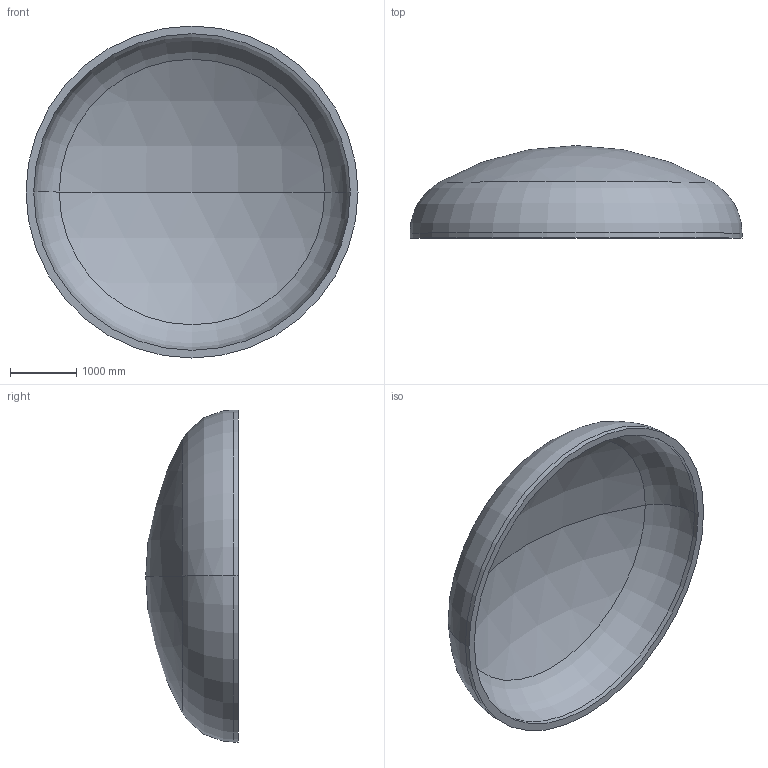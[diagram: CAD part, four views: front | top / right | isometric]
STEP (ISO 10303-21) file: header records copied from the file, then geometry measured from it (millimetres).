
FILE_DESCRIPTION (( 'STEP AP203' ), '1' );
FILE_NAME ('DIN 28013 Korbbogenform_-_Boden DIN 28013 - 5000 x 75 - I - s=116.step', '2016-07-02T01:02:53', ( '' ), ( '' ), 'SwSTEP 2.0', 'SolidWorks 2013', '' );
FILE_SCHEMA (( 'CONFIG_CONTROL_DESIGN' ));
Length unit declared in the file: millimetre
Products named in the file (1): DIN 28013 Korbbogenform_-_Boden DIN 28013 - 5000 x 75 - I - s=116
Bounding box: 5000 x 1393.16 x 5000 mm (x, y, z)
Volume: 3193334053.3 mm3; surface area: 56865496.5 mm2
Topology: 1 solids, 1 shells, 13 faces, 24 edges, 14 vertices
Faces by surface type: torus 4, cylinder 4, sphere 4, plane 1
Entity records: 407 total; most frequent: DIRECTION 72, CARTESIAN_POINT 52, ORIENTED_EDGE 48, AXIS2_PLACEMENT_3D 34, EDGE_CURVE 24, CIRCLE 20, VERTEX_POINT 14, EDGE_LOOP 14
